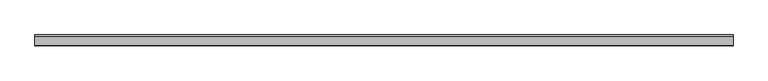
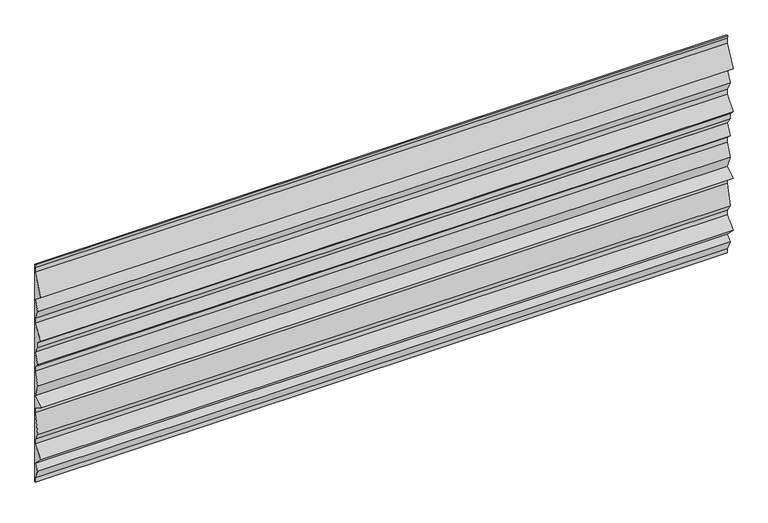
"""IFC4 building model written with IfcOpenShell, lengths in millimetres: plate geometry, ATELIERS 3S_GLACE PISSAILLAS 1000_HORIZONTAL : AZURO."""

import ifcopenshell
import ifcopenshell.guid

model = None  # the IFC model being written
_history = None  # IfcOwnerHistory: only IFC2X3 demands one
_inside = {}  # id of a spatial element -> (the spatial element, [elements in it])
_under = {}  # id of a project, library or spatial element -> (it, [spatial elements below it])
_declared = {}  # id of a project -> (the project, [libraries it declares])
_typed = {}  # id of a type object -> (the type object, [elements of that type])
_made_of = {}  # id of a material, layer set ... -> (it, [elements and type objects made of it])


def new_model(schema):
    """Start an empty IFC model of exactly this schema.

    Asked for "IFC4X3", IfcOpenShell would pick the latest addendum, in which some entities
    have other attributes; the version numbers below select the first issue.
    IFC2X3 requires an IfcOwnerHistory on every rooted entity: one is made here for all.
    """
    global model, _history
    if schema == "IFC4X3":
        model = ifcopenshell.file(schema_version=(4, 3, 0, 0))
    else:
        model = ifcopenshell.file(schema=schema)
    _inside.clear()
    _under.clear()
    _declared.clear()
    _typed.clear()
    _made_of.clear()
    _history = None
    if model.schema == "IFC2X3":
        org = make("IfcOrganization", Name="unknown")
        user = make(
            "IfcPersonAndOrganization",
            ThePerson=make("IfcPerson", FamilyName="unknown"),
            TheOrganization=org,
        )
        app = make(
            "IfcApplication",
            ApplicationDeveloper=org,
            Version="unknown",
            ApplicationFullName="unknown",
            ApplicationIdentifier="unknown",
        )
        _history = make(
            "IfcOwnerHistory",
            OwningUser=user,
            OwningApplication=app,
            ChangeAction="ADDED",
            CreationDate=0,
        )
    return model


def make(cls, **values):
    """One entity of the class cls with the attributes given. An attribute that is None is left unset."""
    return model.create_entity(
        cls, **{name: value for name, value in values.items() if value is not None}
    )


def rooted(cls, **values):
    """An entity with a GlobalId (a new one), such as an element, a storey or a relation."""
    return make(cls, GlobalId=ifcopenshell.guid.new(), OwnerHistory=_history, **values)


def si_unit(unit_type, name, prefix=None):
    """IfcSIUnit, for example si_unit("LENGTHUNIT", "METRE", prefix="MILLI")."""
    return make("IfcSIUnit", UnitType=unit_type, Prefix=prefix, Name=name)


def assignment(units):
    """IfcUnitAssignment: the units of a project."""
    return None if units is None else make("IfcUnitAssignment", Units=units)


def point(xyz):
    """IfcCartesianPoint."""
    return None if xyz is None else make("IfcCartesianPoint", Coordinates=xyz)


def direction(xyz):
    """IfcDirection."""
    return None if xyz is None else make("IfcDirection", DirectionRatios=xyz)


def frame(location, z_axis=None, x_axis=None):
    """IfcAxis2Placement3D, a coordinate frame: its origin and axes. An axis left out is left unset."""
    return make(
        "IfcAxis2Placement3D",
        Location=point(location),
        Axis=direction(z_axis),
        RefDirection=direction(x_axis),
    )


def origin():
    """The frame at (0, 0, 0) with its axes left unset."""
    return frame((0.0, 0.0, 0.0))


def place(relative_to, where):
    """IfcLocalPlacement: puts the frame where relative to a parent placement (None: the world)."""
    return make(
        "IfcLocalPlacement", PlacementRelTo=relative_to, RelativePlacement=where
    )


def context(
    kind, dimensions, precision=None, world=None, true_north=None, identifier=None
):
    """IfcGeometricRepresentationContext, for example the 3D "Model" context."""
    return make(
        "IfcGeometricRepresentationContext",
        ContextIdentifier=identifier,
        ContextType=kind,
        CoordinateSpaceDimension=dimensions,
        Precision=precision,
        WorldCoordinateSystem=world,
        TrueNorth=true_north,
    )


def project(units=None, contexts=None):
    """IfcProject with its units and contexts."""
    return rooted(
        "IfcProject",
        Name="project",
        RepresentationContexts=contexts,
        UnitsInContext=assignment(units),
    )


def spatial(cls, under=None, at=None, **own):
    """A site, building, storey or space (cls), placed at a placement, below another one or the project."""
    s = rooted(cls, ObjectPlacement=at, **own)
    if under is not None:
        _under.setdefault(under.id(), (under, []))[1].append(s)
    return s


def polyline(points):
    """IfcPolyline through the points."""
    return make("IfcPolyline", Points=[point(p) for p in points])


def outline(outer, holes=None, kind="AREA"):
    """IfcArbitraryClosedProfileDef: a profile drawn as a closed curve; with holes, ...WithVoids."""
    if holes is None:
        return make("IfcArbitraryClosedProfileDef", ProfileType=kind, OuterCurve=outer)
    return make(
        "IfcArbitraryProfileDefWithVoids",
        ProfileType=kind,
        OuterCurve=outer,
        InnerCurves=holes,
    )


def extrude(swept, where, along, depth):
    """IfcExtrudedAreaSolid: the profile swept, set in the frame where, extruded along a direction by depth."""
    return make(
        "IfcExtrudedAreaSolid",
        SweptArea=swept,
        Position=where,
        ExtrudedDirection=direction(along),
        Depth=depth,
    )


def shape(context_of_items, identifier, shape_type, items):
    """IfcShapeRepresentation: the items that make up one representation, for example the "Body"."""
    return make(
        "IfcShapeRepresentation",
        ContextOfItems=context_of_items,
        RepresentationIdentifier=identifier,
        RepresentationType=shape_type,
        Items=items,
    )


def source(mapping_origin, context_of_items, identifier, shape_type, items):
    """IfcRepresentationMap: a shape defined once, which mapped items show again and again."""
    return make(
        "IfcRepresentationMap",
        MappingOrigin=mapping_origin,
        MappedRepresentation=shape(context_of_items, identifier, shape_type, items),
    )


def transform(
    local_origin,
    x_axis=None,
    y_axis=None,
    z_axis=None,
    scale=None,
    scale2=None,
    scale3=None,
    uniform=True,
):
    """IfcCartesianTransformationOperator3D, or its non-uniform kind. x_axis, y_axis, z_axis: its Axis1, 2, 3."""
    if uniform:
        return make(
            "IfcCartesianTransformationOperator3D",
            Axis1=direction(x_axis),
            Axis2=direction(y_axis),
            LocalOrigin=point(local_origin),
            Scale=scale,
            Axis3=direction(z_axis),
        )
    return make(
        "IfcCartesianTransformationOperator3DnonUniform",
        Axis1=direction(x_axis),
        Axis2=direction(y_axis),
        LocalOrigin=point(local_origin),
        Scale=scale,
        Axis3=direction(z_axis),
        Scale2=scale2,
        Scale3=scale3,
    )


def mapped(mapping_source, mapping_target):
    """IfcMappedItem: shows the shape of a source again, moved by a transform."""
    return make(
        "IfcMappedItem", MappingSource=mapping_source, MappingTarget=mapping_target
    )


def made_of(thing, what):
    """Note that an element or type object is made of a material, layer set ...; save() writes the relation."""
    if what is not None:
        _made_of.setdefault(what.id(), (what, []))[1].append(thing)
    return thing


def element(
    cls,
    number,
    at=None,
    inside=None,
    cuts=None,
    type_object=None,
    material=None,
    context=None,
    identifier="Body",
    shape_type=None,
    held_by="IfcProductDefinitionShape",
    body=None,
    shapes=None,
    **own,
):
    """One element of the class cls, such as IfcWall. Its Tag is "e" and its number.

    at: its placement. inside: the storey or other place that contains it. cuts: it is an
    opening in that element (IfcRelVoidsElement). A single representation is given by context,
    identifier, shape_type and body (its items); several are given by shapes. held_by: the class
    of the entity that holds the representations. save() writes the other relations.
    """
    e = rooted(cls, Tag="e%d" % number, ObjectPlacement=at, **own)
    if body is not None:
        shapes = [shape(context, identifier, shape_type, body)]
    if shapes is not None:
        e.Representation = make(held_by, Representations=shapes)
    if inside is not None:
        _inside.setdefault(inside.id(), (inside, []))[1].append(e)
    if cuts is not None:
        rooted(
            "IfcRelVoidsElement", RelatingBuildingElement=cuts, RelatedOpeningElement=e
        )
    if type_object is not None:
        _typed.setdefault(type_object.id(), (type_object, []))[1].append(e)
    return made_of(e, material)


def aggregate(whole, parts):
    """IfcRelAggregates: a whole, such as a stair, and the parts it consists of."""
    return rooted("IfcRelAggregates", RelatingObject=whole, RelatedObjects=parts)


def save(model, path):
    """Write the relations noted so far, then the file.

    IfcRelAggregates (storeys below a building ...), IfcRelContainedInSpatialStructure (elements
    in a storey), IfcRelDefinesByType, IfcRelAssociatesMaterial and IfcRelDeclares: one each for
    every whole, place, type object, material and project.
    """
    for whole, parts in _under.values():
        aggregate(whole, parts)
    for where, things in _inside.values():
        rooted(
            "IfcRelContainedInSpatialStructure",
            RelatedElements=things,
            RelatingStructure=where,
        )
    for kind, things in _typed.values():
        rooted("IfcRelDefinesByType", RelatedObjects=things, RelatingType=kind)
    for what, things in _made_of.values():
        rooted("IfcRelAssociatesMaterial", RelatedObjects=things, RelatingMaterial=what)
    for by, libraries in _declared.values():
        rooted("IfcRelDeclares", RelatingContext=by, RelatedDefinitions=libraries)
    model.write(path)


def plate_a5a6b24f(model_context):
    return source(origin(), model_context, "Body", "SweptSolid", [
        extrude(outline(polyline([(-0.8, 0.0), (-0.8, 16.9163895), (-20.9135393, 57.5498441), (-1.0660999, 76.9962838), (-41.0606602, 116.9908441), (-0.75, 157.3015043), (-0.75, 176.7637624), (-20.8080747, 206.8508744), (-0.75, 287.0831733), (-0.75, 306.5751584), (-41.4150972, 331.9908441), (-0.9292392, 357.2945053), (-20.8077747, 406.9908441), (-0.75, 457.1352809), (-0.75, 476.6801839), (-20.9125704, 496.8427543), (-0.8654665, 536.9369621), (-20.75, 566.7637624), (-20.75, 586.6801839), (-41.009736, 606.9399199), (-0.75, 656.2580964), (-0.75, 675.8137931), (-20.8385255, 715.9908441), (-0.9507458, 755.7664035), (-40.9507458, 785.7664035), (-0.75, 866.1678951), (-0.75, 885.8862432), (-4.7649271, 900.0), (0.0, 900.0), (0.0, 0.0), (-0.8, 0.0)])), frame((-1352.0, 0.0, 0.0), z_axis=(1.0, 0.0, 0.0), x_axis=(0.0, 1.0, 0.0)), (0.0, 0.0, 1.0), 2704.0),
    ])


if __name__ == "__main__":
    model = new_model("IFC4")
    model_context = context("Model", 3, world=origin())
    ifc_project = project(units=[si_unit("LENGTHUNIT", "METRE", prefix="MILLI")], contexts=[model_context])
    site = spatial("IfcSite", under=ifc_project)
    building = spatial("IfcBuilding", under=site)
    placement = place(None, origin())
    plate_shape = plate_a5a6b24f(model_context)
    element("IfcPlate", 1, ObjectType="ATELIERS 3S_GLACE PISSAILLAS 1000_HORIZONTAL : AZURO", at=placement, inside=building, context=model_context, shape_type="MappedRepresentation", body=[
        mapped(plate_shape, transform((0.0, 0.0, 0.0), x_axis=(1.0, 0.0, 0.0), y_axis=(0.0, 1.0, 0.0), z_axis=(0.0, 0.0, 1.0))),
    ])
    save(model, "model.ifc")
